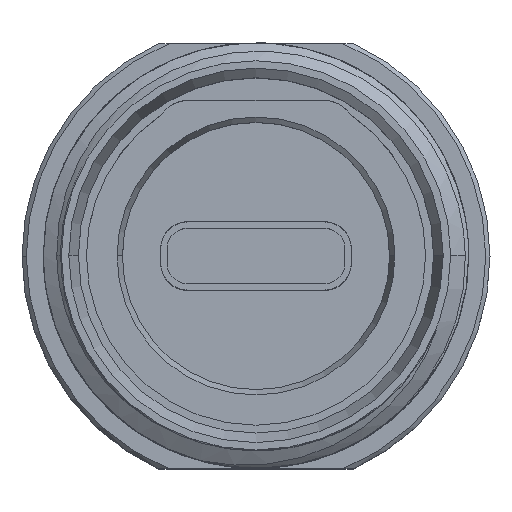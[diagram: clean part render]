
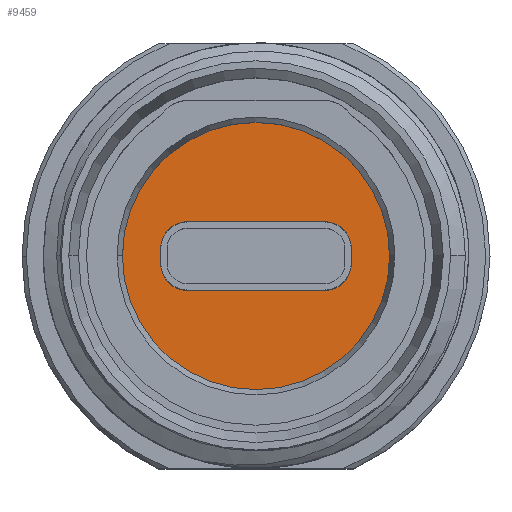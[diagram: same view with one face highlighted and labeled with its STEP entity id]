
A CAD part, top view. The second image highlights one B-rep face of the part: STEP entity #9459.
In plain terms, the highlighted planar face has unit normal (0, 0, 1).
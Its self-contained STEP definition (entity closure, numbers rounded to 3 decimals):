
#71 = CARTESIAN_POINT ( 'NONE',  ( -3.225, -0.365, -2.5 ) ) ;
#84 = EDGE_CURVE ( 'NONE', #8804, #8004, #9344, .T. ) ;
#120 = VERTEX_POINT ( 'NONE', #7317 ) ;
#140 = VECTOR ( 'NONE', #8125, 1000. ) ;
#141 = EDGE_CURVE ( 'NONE', #8874, #3422, #1281, .T. ) ;
#262 = ORIENTED_EDGE ( 'NONE', *, *, #8856, .T. ) ;
#470 = ORIENTED_EDGE ( 'NONE', *, *, #1905, .T. ) ;
#493 = FACE_BOUND ( 'NONE', #3708, .T. ) ;
#537 = CARTESIAN_POINT ( 'NONE',  ( 4.48, 0., -2.5 ) ) ;
#554 = EDGE_LOOP ( 'NONE', ( #2626, #754 ) ) ;
#586 = CIRCLE ( 'NONE', #8920, 6.28 ) ;
#590 = DIRECTION ( 'NONE',  ( 1., 0., 0. ) ) ;
#644 = DIRECTION ( 'NONE',  ( 0., 0., -1. ) ) ;
#665 = CARTESIAN_POINT ( 'NONE',  ( 4.456, -0.627, -2.5 ) ) ;
#754 = ORIENTED_EDGE ( 'NONE', *, *, #5817, .T. ) ;
#1018 = CARTESIAN_POINT ( 'NONE',  ( 3.225, 0.365, -2.5 ) ) ;
#1179 = ORIENTED_EDGE ( 'NONE', *, *, #8679, .T. ) ;
#1247 = CARTESIAN_POINT ( 'NONE',  ( 0., 0., -2.5 ) ) ;
#1257 = EDGE_CURVE ( 'NONE', #5902, #4860, #586, .T. ) ;
#1281 = LINE ( 'NONE', #4574, #4917 ) ;
#1357 = DIRECTION ( 'NONE',  ( 0., 0., 1. ) ) ;
#1374 = EDGE_CURVE ( 'NONE', #6905, #8874, #5629, .T. ) ;
#1398 = VERTEX_POINT ( 'NONE', #5597 ) ;
#1534 = PLANE ( 'NONE',  #4322 ) ;
#1626 = DIRECTION ( 'NONE',  ( 0., 1., 0. ) ) ;
#1678 = CARTESIAN_POINT ( 'NONE',  ( 4.477, -0.36, -2.5 ) ) ;
#1855 = CARTESIAN_POINT ( 'NONE',  ( -4.413, -0.753, -2.5 ) ) ;
#1882 = VERTEX_POINT ( 'NONE', #1855 ) ;
#1905 = EDGE_CURVE ( 'NONE', #120, #1882, #5048, .T. ) ;
#1972 = ORIENTED_EDGE ( 'NONE', *, *, #84, .T. ) ;
#1996 = CARTESIAN_POINT ( 'NONE',  ( -4.477, 0.36, -2.5 ) ) ;
#2057 = CARTESIAN_POINT ( 'NONE',  ( -4.477, 0.36, -2.5 ) ) ;
#2285 = AXIS2_PLACEMENT_3D ( 'NONE', #71, #10254, #5291 ) ;
#2300 = B_SPLINE_CURVE_WITH_KNOTS ( 'NONE', 3,
 ( #1996, #10388, #7013, #2921 ),
 .UNSPECIFIED., .F., .F.,
 ( 4, 4 ),
 ( 0., 1. ),
 .UNSPECIFIED. ) ;
#2388 = CARTESIAN_POINT ( 'NONE',  ( -3.225, 0.365, -2.5 ) ) ;
#2488 = VECTOR ( 'NONE', #4828, 1000. ) ;
#2511 = CARTESIAN_POINT ( 'NONE',  ( -4.477, -0.354, -2.5 ) ) ;
#2573 = LINE ( 'NONE', #2939, #140 ) ;
#2626 = ORIENTED_EDGE ( 'NONE', *, *, #1257, .T. ) ;
#2921 = CARTESIAN_POINT ( 'NONE',  ( -4.413, 0.753, -2.5 ) ) ;
#2939 = CARTESIAN_POINT ( 'NONE',  ( -3.225, -1.615, -2.5 ) ) ;
#3121 = CARTESIAN_POINT ( 'NONE',  ( 4.413, -0.753, -2.5 ) ) ;
#3186 = ORIENTED_EDGE ( 'NONE', *, *, #6107, .T. ) ;
#3259 = CARTESIAN_POINT ( 'NONE',  ( -4.413, 0.753, -2.5 ) ) ;
#3422 = VERTEX_POINT ( 'NONE', #3709 ) ;
#3505 = ORIENTED_EDGE ( 'NONE', *, *, #6372, .T. ) ;
#3516 = CIRCLE ( 'NONE', #5422, 6.28 ) ;
#3705 = B_SPLINE_CURVE_WITH_KNOTS ( 'NONE', 3,
 ( #6596, #5780, #9087, #4143 ),
 .UNSPECIFIED., .F., .F.,
 ( 4, 4 ),
 ( 0., 1. ),
 .UNSPECIFIED. ) ;
#3708 = EDGE_LOOP ( 'NONE', ( #3505, #1972, #6512, #6777, #470, #3186, #1179, #4676, #5177, #6399, #7801, #262 ) ) ;
#3709 = CARTESIAN_POINT ( 'NONE',  ( 3.225, 1.615, -2.5 ) ) ;
#3928 = DIRECTION ( 'NONE',  ( 1., 0., 0. ) ) ;
#3939 = B_SPLINE_CURVE_WITH_KNOTS ( 'NONE', 3,
 ( #9490, #6062, #7875, #5298 ),
 .UNSPECIFIED., .F., .F.,
 ( 4, 4 ),
 ( 0., 1. ),
 .UNSPECIFIED. ) ;
#4034 = VERTEX_POINT ( 'NONE', #2057 ) ;
#4143 = CARTESIAN_POINT ( 'NONE',  ( -4.477, -0.354, -2.5 ) ) ;
#4231 = AXIS2_PLACEMENT_3D ( 'NONE', #2388, #9849, #590 ) ;
#4243 = EDGE_CURVE ( 'NONE', #3422, #10109, #9960, .T. ) ;
#4322 = AXIS2_PLACEMENT_3D ( 'NONE', #9581, #5556, #3928 ) ;
#4350 = AXIS2_PLACEMENT_3D ( 'NONE', #7353, #644, #8798 ) ;
#4548 = AXIS2_PLACEMENT_3D ( 'NONE', #1018, #5915, #6022 ) ;
#4574 = CARTESIAN_POINT ( 'NONE',  ( -3.225, 1.615, -2.5 ) ) ;
#4676 = ORIENTED_EDGE ( 'NONE', *, *, #7557, .T. ) ;
#4828 = DIRECTION ( 'NONE',  ( 0., -1., 0. ) ) ;
#4860 = VERTEX_POINT ( 'NONE', #6966 ) ;
#4917 = VECTOR ( 'NONE', #7921, 1000. ) ;
#4934 = CARTESIAN_POINT ( 'NONE',  ( -4.48, 0., -2.5 ) ) ;
#5048 = CIRCLE ( 'NONE', #2285, 1.25 ) ;
#5177 = ORIENTED_EDGE ( 'NONE', *, *, #1374, .T. ) ;
#5291 = DIRECTION ( 'NONE',  ( 1., 0., 0. ) ) ;
#5298 = CARTESIAN_POINT ( 'NONE',  ( 4.478, 0.354, -2.5 ) ) ;
#5422 = AXIS2_PLACEMENT_3D ( 'NONE', #8076, #8127, #9645 ) ;
#5556 = DIRECTION ( 'NONE',  ( 0., 0., -1. ) ) ;
#5597 = CARTESIAN_POINT ( 'NONE',  ( 4.478, 0.354, -2.5 ) ) ;
#5629 = CIRCLE ( 'NONE', #4231, 1.25 ) ;
#5660 = LINE ( 'NONE', #537, #2488 ) ;
#5780 = CARTESIAN_POINT ( 'NONE',  ( -4.456, -0.627, -2.5 ) ) ;
#5783 = CIRCLE ( 'NONE', #4350, 1.25 ) ;
#5817 = EDGE_CURVE ( 'NONE', #4860, #5902, #3516, .T. ) ;
#5902 = VERTEX_POINT ( 'NONE', #7307 ) ;
#5915 = DIRECTION ( 'NONE',  ( 0., 0., -1. ) ) ;
#6022 = DIRECTION ( 'NONE',  ( 1., 0., 0. ) ) ;
#6062 = CARTESIAN_POINT ( 'NONE',  ( 4.456, 0.627, -2.5 ) ) ;
#6107 = EDGE_CURVE ( 'NONE', #1882, #10161, #3705, .T. ) ;
#6137 = DIRECTION ( 'NONE',  ( -1., 0., 0. ) ) ;
#6334 = CARTESIAN_POINT ( 'NONE',  ( 4.478, -0.498, -2.5 ) ) ;
#6372 = EDGE_CURVE ( 'NONE', #1398, #8804, #5660, .T. ) ;
#6399 = ORIENTED_EDGE ( 'NONE', *, *, #141, .T. ) ;
#6446 = EDGE_CURVE ( 'NONE', #8004, #9513, #5783, .T. ) ;
#6512 = ORIENTED_EDGE ( 'NONE', *, *, #6446, .T. ) ;
#6596 = CARTESIAN_POINT ( 'NONE',  ( -4.413, -0.753, -2.5 ) ) ;
#6777 = ORIENTED_EDGE ( 'NONE', *, *, #9349, .T. ) ;
#6905 = VERTEX_POINT ( 'NONE', #3259 ) ;
#6966 = CARTESIAN_POINT ( 'NONE',  ( -6.28, 0., -2.5 ) ) ;
#7013 = CARTESIAN_POINT ( 'NONE',  ( -4.456, 0.627, -2.5 ) ) ;
#7307 = CARTESIAN_POINT ( 'NONE',  ( 6.28, 0., -2.5 ) ) ;
#7317 = CARTESIAN_POINT ( 'NONE',  ( -3.225, -1.615, -2.5 ) ) ;
#7353 = CARTESIAN_POINT ( 'NONE',  ( 3.225, -0.365, -2.5 ) ) ;
#7557 = EDGE_CURVE ( 'NONE', #4034, #6905, #2300, .T. ) ;
#7801 = ORIENTED_EDGE ( 'NONE', *, *, #4243, .T. ) ;
#7875 = CARTESIAN_POINT ( 'NONE',  ( 4.478, 0.498, -2.5 ) ) ;
#7921 = DIRECTION ( 'NONE',  ( 1., 0., 0. ) ) ;
#8004 = VERTEX_POINT ( 'NONE', #10141 ) ;
#8076 = CARTESIAN_POINT ( 'NONE',  ( 0., 0., -2.5 ) ) ;
#8125 = DIRECTION ( 'NONE',  ( -1., 0., 0. ) ) ;
#8127 = DIRECTION ( 'NONE',  ( 0., 0., 1. ) ) ;
#8135 = CARTESIAN_POINT ( 'NONE',  ( 4.477, -0.36, -2.5 ) ) ;
#8679 = EDGE_CURVE ( 'NONE', #10161, #4034, #10054, .T. ) ;
#8798 = DIRECTION ( 'NONE',  ( -1., 0., 0. ) ) ;
#8804 = VERTEX_POINT ( 'NONE', #1678 ) ;
#8856 = EDGE_CURVE ( 'NONE', #10109, #1398, #3939, .T. ) ;
#8874 = VERTEX_POINT ( 'NONE', #10377 ) ;
#8920 = AXIS2_PLACEMENT_3D ( 'NONE', #1247, #1357, #6137 ) ;
#9087 = CARTESIAN_POINT ( 'NONE',  ( -4.478, -0.498, -2.5 ) ) ;
#9337 = VECTOR ( 'NONE', #1626, 1000. ) ;
#9344 = B_SPLINE_CURVE_WITH_KNOTS ( 'NONE', 3,
 ( #8135, #6334, #665, #3121 ),
 .UNSPECIFIED., .F., .F.,
 ( 4, 4 ),
 ( 0., 1. ),
 .UNSPECIFIED. ) ;
#9349 = EDGE_CURVE ( 'NONE', #9513, #120, #2573, .T. ) ;
#9459 = ADVANCED_FACE ( 'NONE', ( #493, #10570 ), #1534, .F. ) ;
#9490 = CARTESIAN_POINT ( 'NONE',  ( 4.413, 0.753, -2.5 ) ) ;
#9513 = VERTEX_POINT ( 'NONE', #9816 ) ;
#9581 = CARTESIAN_POINT ( 'NONE',  ( 0., 0., -2.5 ) ) ;
#9645 = DIRECTION ( 'NONE',  ( -1., 0., 0. ) ) ;
#9816 = CARTESIAN_POINT ( 'NONE',  ( 3.225, -1.615, -2.5 ) ) ;
#9849 = DIRECTION ( 'NONE',  ( 0., 0., -1. ) ) ;
#9960 = CIRCLE ( 'NONE', #4548, 1.25 ) ;
#10054 = LINE ( 'NONE', #4934, #9337 ) ;
#10109 = VERTEX_POINT ( 'NONE', #10784 ) ;
#10141 = CARTESIAN_POINT ( 'NONE',  ( 4.413, -0.753, -2.5 ) ) ;
#10161 = VERTEX_POINT ( 'NONE', #2511 ) ;
#10254 = DIRECTION ( 'NONE',  ( 0., 0., -1. ) ) ;
#10377 = CARTESIAN_POINT ( 'NONE',  ( -3.225, 1.615, -2.5 ) ) ;
#10388 = CARTESIAN_POINT ( 'NONE',  ( -4.478, 0.498, -2.5 ) ) ;
#10570 = FACE_OUTER_BOUND ( 'NONE', #554, .T. ) ;
#10784 = CARTESIAN_POINT ( 'NONE',  ( 4.413, 0.753, -2.5 ) ) ;
